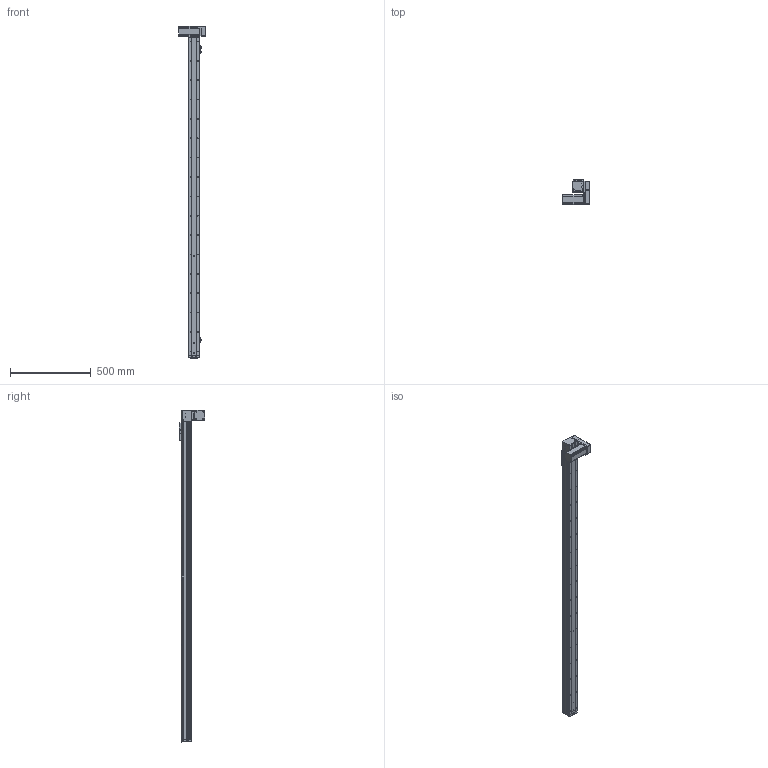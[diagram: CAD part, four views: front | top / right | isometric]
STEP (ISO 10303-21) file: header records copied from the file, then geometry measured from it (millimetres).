
FILE_DESCRIPTION (( 'STEP AP214' ), '1' );
FILE_NAME ('KSD68BS-S1800-MLD-CR.STEP', '2019-08-27T06:11:20', ( '微软用户' ), ( '微软中国' ), 'SwSTEP 2.0', 'SolidWorks 2014', '' );
FILE_SCHEMA (( 'AUTOMOTIVE_DESIGN' ));
Length unit declared in the file: millimetre
Products named in the file (14): 68遵裔啣揤啣1; 68宽单导轨全封闭丝杆传动安装板1防护罩; KSD68BS 1800行程侧板全封闭; 68宽单导轨全封闭同步带端板; 68单导轨全封闭同步带电机座左; 68单导轨全封闭同步带安装板; 悵誘欶奻狟殏; 68宽马达安装板连板上折同步带; 感应片68宽全封闭; U倰嫖萇EEㄜSX672; 台达ECMA－C20604AS伺服电机（400W); KSD68BS 1800行程底板全封闭; KSD68BS-S1800-MLD-CR; KSD68BS 1800行程盖板全封闭
Assembly tree (17 placements, depth 2):
  KSD68BS-S1800-MLD-CR
    KSD68BS 1800行程底板全封闭
    台达ECMA－C20604AS伺服电机（400W)
    U倰嫖萇EEㄜSX672  x3
    感应片68宽全封闭
    68宽马达安装板连板上折同步带
    悵誘欶奻狟殏
    68单导轨全封闭同步带安装板
    68单导轨全封闭同步带电机座左
    68宽单导轨全封闭同步带端板
    KSD68BS 1800行程侧板全封闭  x2
    68宽单导轨全封闭丝杆传动安装板1防护罩
    68遵裔啣揤啣1  x2
    KSD68BS 1800行程盖板全封闭
Bounding box: 167.2 x 155.5 x 2058.1 mm (x, y, z)
Volume: 3618247.5 mm3; surface area: 1477474.8 mm2
Topology: 18 solids, 18 shells, 1573 faces, 4539 edges, 2884 vertices
Faces by surface type: cylinder 748, plane 629, cone 196
Entity records: 50823 total; most frequent: CARTESIAN_POINT 9051, DIRECTION 7554, ORIENTED_EDGE 7274, EDGE_CURVE 3637, AXIS2_PLACEMENT_3D 2735, VERTEX_POINT 2382, VECTOR 2084, LINE 2084
